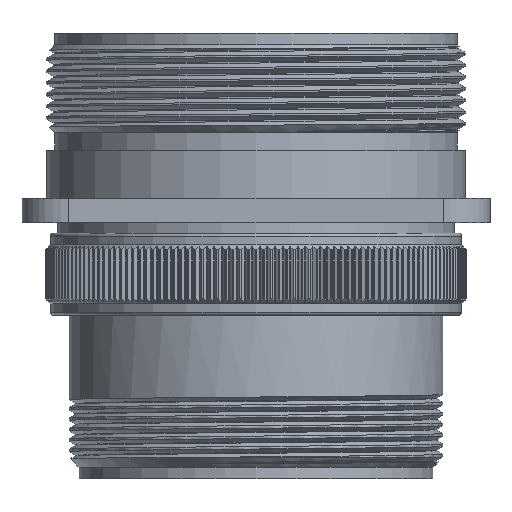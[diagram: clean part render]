
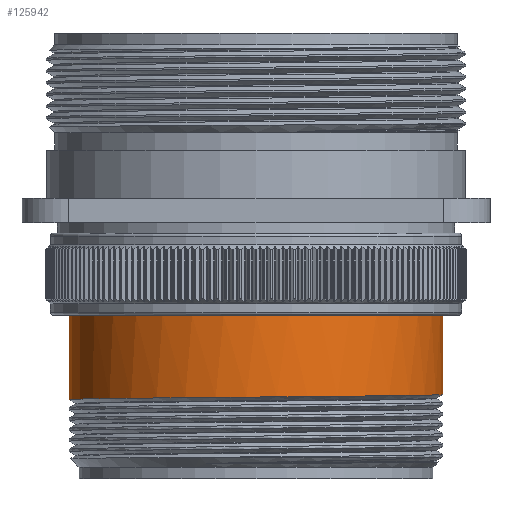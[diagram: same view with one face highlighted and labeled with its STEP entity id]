
A CAD part, front view. The second image highlights one B-rep face of the part: STEP entity #125942.
In plain terms, the highlighted cylindrical face has radius 25.355 mm (diameter 50.71 mm), a partial arc.
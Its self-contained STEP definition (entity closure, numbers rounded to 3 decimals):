
#5923 = CARTESIAN_POINT ( 'NONE',  ( 25.355, -6.794, -49.096 ) ) ;
#10381 = LINE ( 'NONE', #124697, #126896 ) ;
#11030 = VERTEX_POINT ( 'NONE', #47522 ) ;
#13605 = CARTESIAN_POINT ( 'NONE',  ( 25.355, 0., -27.16 ) ) ;
#14830 = ORIENTED_EDGE ( 'NONE', *, *, #134341, .T. ) ;
#21396 = CARTESIAN_POINT ( 'NONE',  ( 25.355, 0., -49.033 ) ) ;
#23724 = EDGE_CURVE ( 'NONE', #11030, #30110, #43889, .T. ) ;
#27348 = CARTESIAN_POINT ( 'NONE',  ( -25.355, -6.794, -49.675 ) ) ;
#30110 = VERTEX_POINT ( 'NONE', #55628 ) ;
#32674 = AXIS2_PLACEMENT_3D ( 'NONE', #127152, #61527, #138197 ) ;
#33426 = VERTEX_POINT ( 'NONE', #75100 ) ;
#41598 = DIRECTION ( 'NONE',  ( 1., 0., 0. ) ) ;
#43621 = ORIENTED_EDGE ( 'NONE', *, *, #23724, .F. ) ;
#43889 = CIRCLE ( 'NONE', #32674, 25.355 ) ;
#47522 = CARTESIAN_POINT ( 'NONE',  ( -25.355, 0., -38.27 ) ) ;
#48076 = DIRECTION ( 'NONE',  ( 0., 0., 1. ) ) ;
#49405 = CARTESIAN_POINT ( 'NONE',  ( -21.958, -12.677, -49.621 ) ) ;
#54943 = VECTOR ( 'NONE', #90190, 1000. ) ;
#55628 = CARTESIAN_POINT ( 'NONE',  ( 25.355, 0., -38.27 ) ) ;
#60436 = CARTESIAN_POINT ( 'NONE',  ( 0., -25.355, -49.386 ) ) ;
#61527 = DIRECTION ( 'NONE',  ( 0., 0., 1. ) ) ;
#71440 = CARTESIAN_POINT ( 'NONE',  ( 21.958, -12.678, -49.151 ) ) ;
#72442 =( BOUNDED_CURVE ( )  B_SPLINE_CURVE ( 2, ( #103931, #27348, #49405, #126036, #60436, #137086, #71440, #5923, #82437 ),
 .UNSPECIFIED., .F., .F. ) 
 B_SPLINE_CURVE_WITH_KNOTS ( ( 3, 2, 2, 2, 3 ),
 ( 0.906, 0.917, 0.938, 0.958, 0.969 ),
 .UNSPECIFIED. ) 
 CURVE ( )  GEOMETRIC_REPRESENTATION_ITEM ( )  RATIONAL_B_SPLINE_CURVE ( ( 0.933, 0.933, 1., 0.866, 1., 0.866, 1., 0.933, 0.933 ) ) 
 REPRESENTATION_ITEM ( '' )  );
#72685 = CYLINDRICAL_SURFACE ( 'NONE', #109237, 25.355 ) ;
#74964 = EDGE_LOOP ( 'NONE', ( #87272, #14830, #119440, #43621 ) ) ;
#75100 = CARTESIAN_POINT ( 'NONE',  ( -25.355, 0., -49.739 ) ) ;
#81296 = VERTEX_POINT ( 'NONE', #21396 ) ;
#82437 = CARTESIAN_POINT ( 'NONE',  ( 25.355, 0., -49.033 ) ) ;
#84065 = LINE ( 'NONE', #13605, #54943 ) ;
#84922 = EDGE_CURVE ( 'NONE', #33426, #11030, #10381, .T. ) ;
#85196 = DIRECTION ( 'NONE',  ( 0., 0., 1. ) ) ;
#87272 = ORIENTED_EDGE ( 'NONE', *, *, #84922, .F. ) ;
#90190 = DIRECTION ( 'NONE',  ( 0., 0., 1. ) ) ;
#103931 = CARTESIAN_POINT ( 'NONE',  ( -25.355, 0., -49.739 ) ) ;
#107191 = CARTESIAN_POINT ( 'NONE',  ( 0., 0., -27.16 ) ) ;
#109237 = AXIS2_PLACEMENT_3D ( 'NONE', #107191, #85196, #41598 ) ;
#119440 = ORIENTED_EDGE ( 'NONE', *, *, #123928, .T. ) ;
#123928 = EDGE_CURVE ( 'NONE', #81296, #30110, #84065, .T. ) ;
#124697 = CARTESIAN_POINT ( 'NONE',  ( -25.355, 0., -27.16 ) ) ;
#125942 = ADVANCED_FACE ( 'NONE', ( #130976 ), #72685, .T. ) ;
#126036 = CARTESIAN_POINT ( 'NONE',  ( -14.639, -25.355, -49.503 ) ) ;
#126896 = VECTOR ( 'NONE', #48076, 1000. ) ;
#127152 = CARTESIAN_POINT ( 'NONE',  ( 0., 0., -38.27 ) ) ;
#130976 = FACE_OUTER_BOUND ( 'NONE', #74964, .T. ) ;
#134341 = EDGE_CURVE ( 'NONE', #33426, #81296, #72442, .T. ) ;
#137086 = CARTESIAN_POINT ( 'NONE',  ( 14.639, -25.355, -49.268 ) ) ;
#138197 = DIRECTION ( 'NONE',  ( 1., 0., 0. ) ) ;
